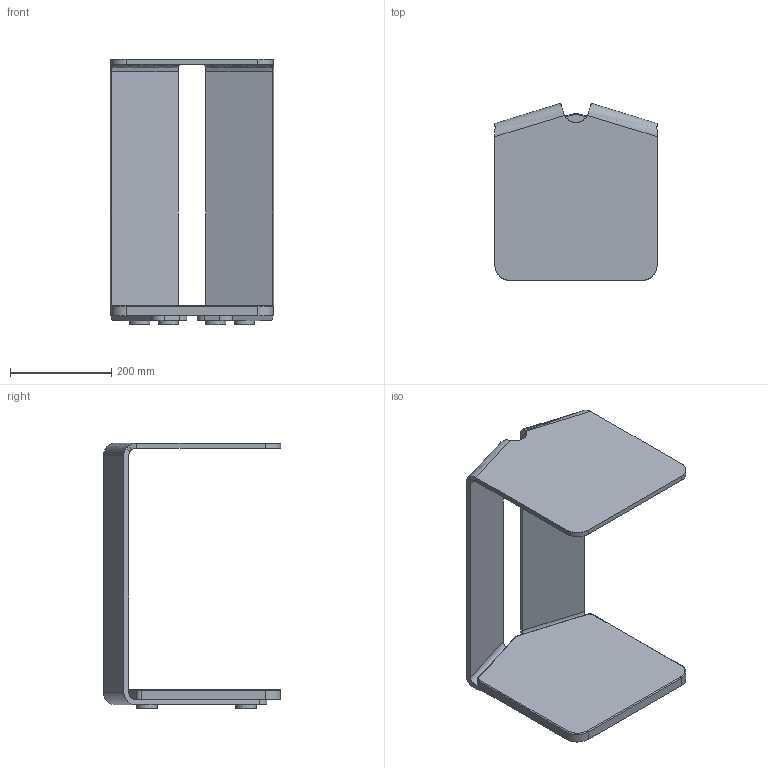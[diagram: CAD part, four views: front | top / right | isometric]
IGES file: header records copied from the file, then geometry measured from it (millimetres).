
Global section: file name: C:\Users\l.marzoli\Desktop\3D_2024\x-web\YORK-side-table\3D_YORK-side-table.igs; native system: Rhinoceros ( Aug 11 2021 ); preprocessor: Trout Lake IGES 012 Aug 11 2021; date: 240429.105952; units: millimetre
Bounding box: 323.14 x 349.39 x 524 mm (x, y, z)
Surface area: 878968.7 mm2 (no closed solid volume)
Topology: 0 solids, 0 shells, 78 faces, 510 edges, 506 vertices
Faces by surface type: bspline 78
